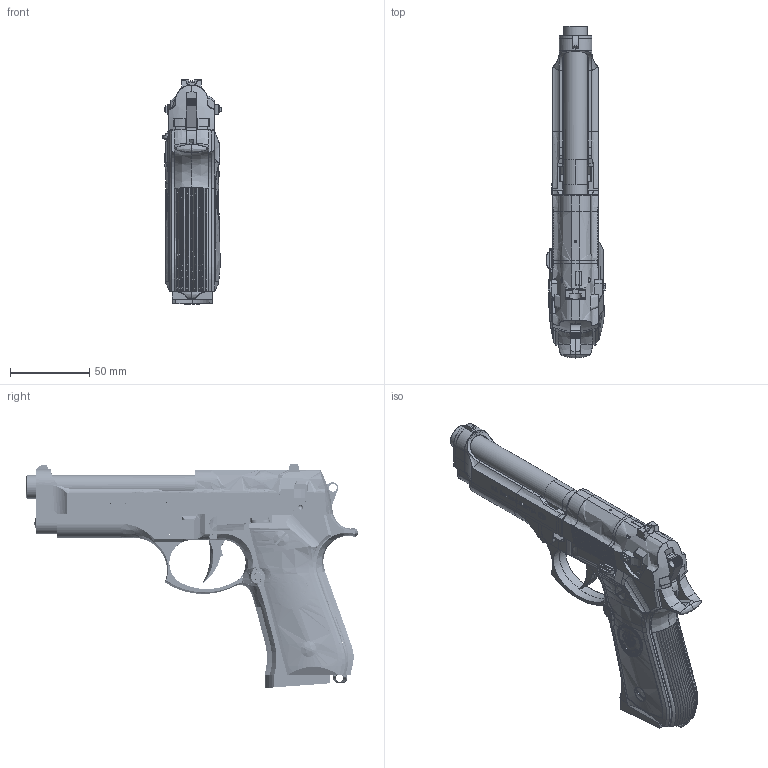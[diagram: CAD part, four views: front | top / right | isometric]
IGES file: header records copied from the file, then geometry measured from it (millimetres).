
Global section: file name: C:\Users\Jazbec\Desktop\Beretta_iges.igs; native system: Rhinoceros ( Jan 18 2007 ); preprocessor: Trout Lake IGES 012 Jan 18 2007; date: 130307.120839; units: millimetre
Bounding box: 37.04 x 209 x 141.18 mm (x, y, z)
Surface area: 150896.7 mm2 (no closed solid volume)
Topology: 0 solids, 0 shells, 3445 faces, 63832 edges, 63675 vertices
Faces by surface type: bspline 3445
